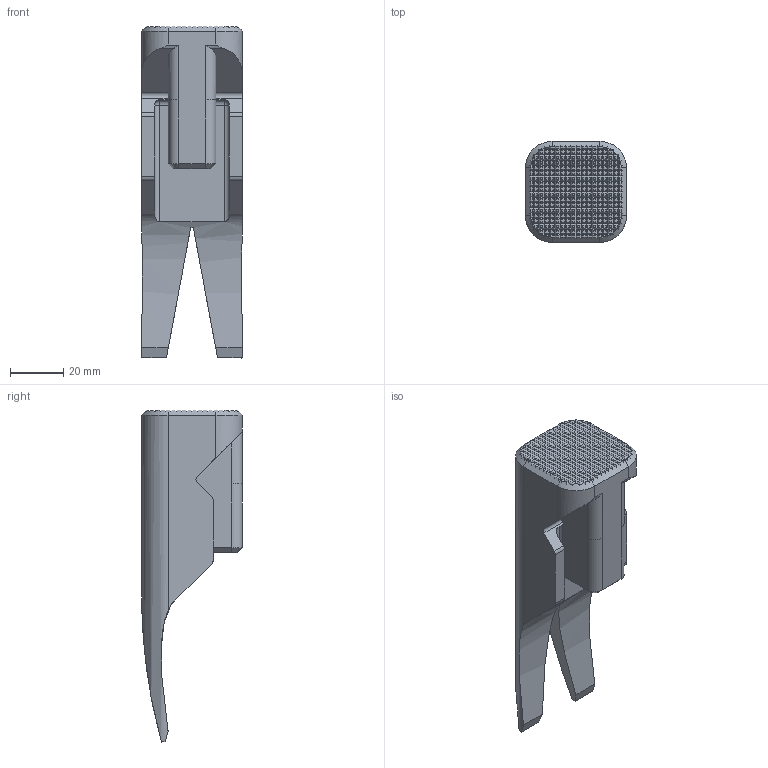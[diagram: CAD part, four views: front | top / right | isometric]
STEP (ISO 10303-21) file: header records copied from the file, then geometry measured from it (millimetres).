
FILE_DESCRIPTION (( 'STEP AP214' ), '1' );
FILE_NAME ('Ãîëîâêà ìîëîòêà.STEP', '2026-02-11T17:54:48', ( '' ), ( '' ), 'SwSTEP 2.0', 'SolidWorks 2021', '' );
FILE_SCHEMA (( 'AUTOMOTIVE_DESIGN' ));
Length unit declared in the file: millimetre
Products named in the file (1): Ãîëîâêà ìîëîòêà
Bounding box: 38 x 38 x 125 mm (x, y, z)
Volume: 70806 mm3; surface area: 19350.9 mm2
Topology: 1 solids, 1 shells, 1558 faces, 3259 edges, 1700 vertices
Faces by surface type: plane 1517, cylinder 25, cone 12, bspline 2, sphere 2
Entity records: 39014 total; most frequent: CARTESIAN_POINT 6949, ORIENTED_EDGE 6510, DIRECTION 6339, EDGE_CURVE 3255, VECTOR 3101, LINE 3101, VERTEX_POINT 1700, AXIS2_PLACEMENT_3D 1619
